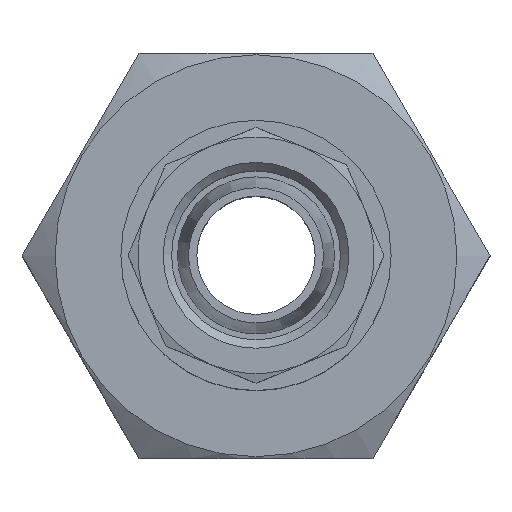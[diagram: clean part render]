
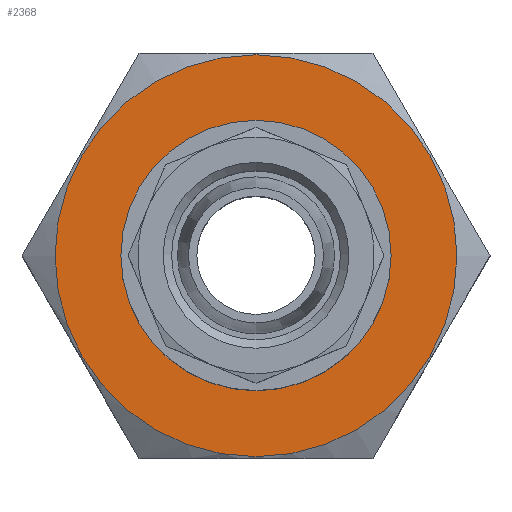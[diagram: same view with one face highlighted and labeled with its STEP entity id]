
A CAD part, top view. The second image highlights one B-rep face of the part: STEP entity #2368.
In plain terms, the highlighted planar face has unit normal (0, 0, 1) as drawn and (0, 1, 0) by its records, which use the part's own axes.
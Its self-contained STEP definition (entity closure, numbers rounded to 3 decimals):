
#1089=PLANE('',#2287);
#1283=ORIENTED_EDGE('',*,*,#1488,.F.);
#1284=ORIENTED_EDGE('',*,*,#1446,.F.);
#1308=CIRCLE('',#2226,6.25);
#1326=CIRCLE('',#2286,11.9);
#1363=VERTEX_POINT('',#2056);
#1393=VERTEX_POINT('',#2152);
#1446=EDGE_CURVE('',#1363,#1363,#1308,.T.);
#1488=EDGE_CURVE('',#1393,#1393,#1326,.T.);
#1566=EDGE_LOOP('',(#1283));
#1567=EDGE_LOOP('',(#1284));
#1648=FACE_BOUND('',#1566,.T.);
#1649=FACE_BOUND('',#1567,.T.);
#1800=DIRECTION('',(0.,1.,0.));
#1801=DIRECTION('',(0.,0.,-6.25));
#1926=DIRECTION('',(0.,-1.,0.));
#1927=DIRECTION('',(0.,0.,11.9));
#1928=DIRECTION('',(0.,1.,0.));
#1929=DIRECTION('',(1.,0.,0.));
#2056=CARTESIAN_POINT('',(25.032,30.916,-6.25));
#2057=CARTESIAN_POINT('',(25.032,30.916,0.));
#2152=CARTESIAN_POINT('',(25.032,30.916,11.9));
#2153=CARTESIAN_POINT('',(25.032,30.916,0.));
#2154=CARTESIAN_POINT('',(36.932,30.916,0.));
#2226=AXIS2_PLACEMENT_3D('',#2057,#1800,#1801);
#2286=AXIS2_PLACEMENT_3D('',#2153,#1926,#1927);
#2287=AXIS2_PLACEMENT_3D('',#2154,#1928,#1929);
#2368=ADVANCED_FACE('',(#1648,#1649),#1089,.T.);
